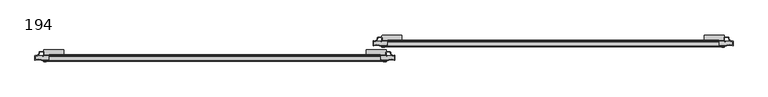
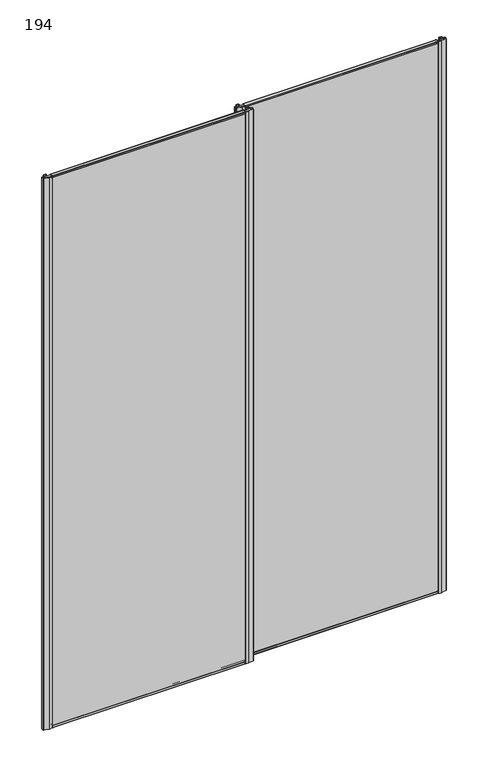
"""IFC4 building model written with IfcOpenShell, lengths in millimetres: proxy geometry, Doors-Other- SOGAL-SOG020022 : 194."""

from ifc_helpers import new_model, si_unit, point, frame, frame_2d, origin, place, context, project, spatial, polyline, circle_curve, trimmed, segment, composite_curve, outline, extrude, source, transform, mapped, element, save
from ifc_brep_helpers import plane_surface, cylinder_surface, advanced_brep


def proxy_194_fea3deca(model_context):
    return source(origin(), model_context, "Body", "SolidModel", [
        extrude(outline(polyline([(35.7189733, 0.5001148), (33.2189805, 0.5001148), (31.7000096, 9.1146495), (35.3189977, 9.1146495), (35.3189977, 1.8001808), (37.0189963, 1.8001808), (35.7189733, 0.5001148)])), frame((-3.431231, 0.0, 0.0), z_axis=(1.0, 0.0, 0.0), x_axis=(0.0, 1.0, 0.0)), (0.0, 0.0, 1.0), 3.4418784),
        extrude(outline(polyline([(31.9189872, 0.5001148), (30.6189642, 1.8001808), (32.3189628, 1.8001808), (32.3189628, 9.1146495), (35.9379509, 9.1146495), (34.41898, 0.5001148), (31.9189872, 0.5001148)])), frame((0.3258571, 0.0, 0.0), z_axis=(1.0, 0.0, 0.0), x_axis=(0.0, 1.0, 0.0)), (0.0, 0.0, 1.0), 3.3556559),
        advanced_brep(
        [(5.6593371, 38.8253348, 101.7001877), (4.165725, 40.3189469, 101.7001877), (-48.1393518, 40.3189469, 101.7001877), (-49.6393329, 38.8189658, 101.7001877), (-49.6393556, 26.6175523, 101.7001877), (-48.6393531, 25.6190084, 101.7001877), (4.6607357, 25.6190084, 101.7001877), (5.6607474, 26.61902, 101.7001877), (5.6607474, 38.8189658, 9.1146495), (5.6607474, 26.61902, 9.1146495), (4.6607357, 25.6190084, 9.1146495), (-48.6393531, 25.6190084, 9.1146495), (-49.637897, 26.6175523, 9.1146495), (-49.6393556, 38.8189658, 9.1146495), (-48.1393518, 40.3189469, 9.1146495), (4.165725, 40.3189469, 9.1146495)],
        [
            (0, 1, circle_curve(frame((4.165725, 38.8253348, 101.7001877), z_axis=(0.0, 0.0, 1.0), x_axis=(-1.0, 0.0, 0.0)), 1.4936121)),
            (1, 2),
            (2, 3, circle_curve(frame((-48.1393518, 38.8189658, 101.7001877), z_axis=(0.0, 0.0, 1.0), x_axis=(-1.0, 0.0, 0.0)), 1.4999811)),
            (3, 4),
            (4, 5, circle_curve(frame((-48.6393531, 26.6175523, 101.7001877), z_axis=(0.0, 0.0, 1.0), x_axis=(-1.0, 0.0, 0.0)), 0.9985439)),
            (5, 6),
            (6, 7, circle_curve(frame((4.6607357, 26.61902, 101.7001877), z_axis=(0.0, 0.0, 1.0), x_axis=(-1.0, 0.0, 0.0)), 1.0000116)),
            (7, 0),
            (8, 9),
            (9, 10, circle_curve(frame((4.6607357, 26.61902, 9.1146495), z_axis=(0.0, 0.0, -1.0), x_axis=(-1.0, 0.0, 0.0)), 1.0000116)),
            (10, 11),
            (11, 12, circle_curve(frame((-48.6393531, 26.6175523, 9.1146495), z_axis=(0.0, 0.0, -1.0), x_axis=(-1.0, 0.0, 0.0)), 0.9985439)),
            (12, 13),
            (13, 14, circle_curve(frame((-48.1393518, 38.8189658, 9.1146495), z_axis=(0.0, 0.0, -1.0), x_axis=(-1.0, 0.0, 0.0)), 1.4999811)),
            (14, 15),
            (15, 8, circle_curve(frame((4.165725, 38.8253348, 9.1146495), z_axis=(0.0, 0.0, -1.0), x_axis=(-1.0, 0.0, 0.0)), 1.4936121)),
            (7, 9),
            (8, 0),
            (6, 10),
            (5, 11),
            (4, 12),
            (3, 13),
            (2, 14),
            (1, 15),
        ],
        [
            plane_surface(frame((5.6607474, 31.1939588, 101.7001877), z_axis=(0.0, 0.0, 1.0), x_axis=(0.0, -1.0, 0.0))),
            plane_surface(frame((5.6607474, 31.1939588, 9.1146495), z_axis=(0.0, 0.0, -1.0), x_axis=(0.0, 1.0, 0.0))),
            plane_surface(frame((5.6607474, 38.8189658, 101.7001877), z_axis=(1.0, 0.0, 0.0), x_axis=(0.0, 0.0, -1.0))),
            cylinder_surface(frame((4.6607357, 26.61902, 9.1146495), z_axis=(0.0, 0.0, 1.0), x_axis=(-1.0, 0.0, 0.0)), 1.0000116),
            plane_surface(frame((4.6607357, 25.6190084, 101.7001877), z_axis=(0.0, -1.0, 0.0), x_axis=(0.0, 0.0, -1.0))),
            cylinder_surface(frame((-48.6393531, 26.6175523, 9.1146495), z_axis=(0.0, 0.0, 1.0), x_axis=(-1.0, 0.0, 0.0)), 0.9985439),
            plane_surface(frame((-49.6393556, 26.6175523, 101.7001877), z_axis=(-1.0, 0.0, 0.0), x_axis=(0.0, 0.0, -1.0))),
            cylinder_surface(frame((-48.1393518, 38.8189658, 9.1146495), z_axis=(0.0, 0.0, 1.0), x_axis=(-1.0, 0.0, 0.0)), 1.4999811),
            plane_surface(frame((-48.1393518, 40.3189469, 101.7001877), z_axis=(0.0, 1.0, 0.0), x_axis=(0.0, 0.0, -1.0))),
            cylinder_surface(frame((4.165725, 38.8253348, 9.1146495), z_axis=(0.0, 0.0, 1.0), x_axis=(-1.0, 0.0, 0.0)), 1.4936121),
        ],
        [
            (0, [[1, 2, 3, 4, 5, 6, 7, 8]]),
            (1, [[9, 10, 11, 12, 13, 14, 15, 16]]),
            (2, [[17, -9, 18, -8]]),
            (3, [[19, -10, -17, -7]]),
            (4, [[20, -11, -19, -6]]),
            (5, [[21, -12, -20, -5]]),
            (6, [[22, -13, -21, -4]]),
            (7, [[23, -14, -22, -3]]),
            (8, [[24, -15, -23, -2]]),
            (9, [[-18, -16, -24, -1]]),
        ],
    ),
        extrude(outline(polyline([(35.7189733, 0.5001148), (33.2189805, 0.5001148), (31.7000096, 9.1146495), (35.3189977, 9.1146495), (35.3189977, 1.8001808), (37.0189963, 1.8001808), (35.7189733, 0.5001148)])), frame((-43.9893513, 0.0, 0.0), z_axis=(1.0, 0.0, 0.0), x_axis=(0.0, 1.0, 0.0)), (0.0, 0.0, 1.0), 3.4418784),
        extrude(outline(polyline([(31.9189872, 0.5001148), (30.6189642, 1.8001808), (32.3189628, 1.8001808), (32.3189628, 9.1146495), (35.9379509, 9.1146495), (34.41898, 0.5001148), (31.9189872, 0.5001148)])), frame((-47.6602169, 0.0, 0.0), z_axis=(1.0, 0.0, 0.0), x_axis=(0.0, 1.0, 0.0)), (0.0, 0.0, 1.0), 3.3556559),
        extrude(outline(composite_curve([segment(trimmed(circle_curve(frame_2d((18.4478565, -21.9704877)), 17.4793341), [point((18.4478565, -4.4911536))], [point((18.4478565, -39.4498218))], False, "CARTESIAN"), True, "CONTINUOUS"), segment(trimmed(circle_curve(frame_2d((18.4478565, -21.9704877)), 17.4793341), [point((18.4478565, -39.4498218))], [point((18.4478565, -4.4911536))], False, "CARTESIAN"), True, "CONTINUOUS")], self_intersect=False)), frame((0.0, 29.818061, 0.0), z_axis=(0.0, 1.0, 0.0), x_axis=(0.0, 0.0, 1.0)), (0.0, 0.0, 1.0), 7.9147389),
        extrude(outline(polyline([(35.7189733, 0.5001148), (33.2189805, 0.5001148), (31.7000096, 9.1146495), (35.3189977, 9.1146495), (35.3189977, 1.8001808), (37.0189963, 1.8001808), (35.7189733, 0.5001148)])), frame((-899.4523014, 0.0, 0.0), z_axis=(1.0, 0.0, 0.0), x_axis=(0.0, 1.0, 0.0)), (0.0, 0.0, 1.0), 3.4418784),
        extrude(outline(polyline([(31.9189872, 0.5001148), (30.6189642, 1.8001808), (32.3189628, 1.8001808), (32.3189628, 9.1146495), (35.9379509, 9.1146495), (34.41898, 0.5001148), (31.9189872, 0.5001148)])), frame((-895.6952133, 0.0, 0.0), z_axis=(1.0, 0.0, 0.0), x_axis=(0.0, 1.0, 0.0)), (0.0, 0.0, 1.0), 3.3556559),
        advanced_brep(
        [(-890.3617334, 38.8253348, 101.7001877), (-891.8553455, 40.3189469, 101.7001877), (-944.1604222, 40.3189469, 101.7001877), (-945.6604033, 38.8189658, 101.7001877), (-945.660426, 26.6175523, 101.7001877), (-944.6604235, 25.6190084, 101.7001877), (-891.3603347, 25.6190084, 101.7001877), (-890.360323, 26.61902, 101.7001877), (-890.360323, 38.8189658, 9.1146495), (-890.360323, 26.61902, 9.1146495), (-891.3603347, 25.6190084, 9.1146495), (-944.6604235, 25.6190084, 9.1146495), (-945.6589674, 26.6175523, 9.1146495), (-945.660426, 38.8189658, 9.1146495), (-944.1604222, 40.3189469, 9.1146495), (-891.8553455, 40.3189469, 9.1146495)],
        [
            (0, 1, circle_curve(frame((-891.8553455, 38.8253348, 101.7001877), z_axis=(0.0, 0.0, 1.0), x_axis=(-1.0, 0.0, 0.0)), 1.4936121)),
            (1, 2),
            (2, 3, circle_curve(frame((-944.1604222, 38.8189658, 101.7001877), z_axis=(0.0, 0.0, 1.0), x_axis=(-1.0, 0.0, 0.0)), 1.4999811)),
            (3, 4),
            (4, 5, circle_curve(frame((-944.6604235, 26.6175523, 101.7001877), z_axis=(0.0, 0.0, 1.0), x_axis=(-1.0, 0.0, 0.0)), 0.9985439)),
            (5, 6),
            (6, 7, circle_curve(frame((-891.3603347, 26.61902, 101.7001877), z_axis=(0.0, 0.0, 1.0), x_axis=(-1.0, 0.0, 0.0)), 1.0000116)),
            (7, 0),
            (8, 9),
            (9, 10, circle_curve(frame((-891.3603347, 26.61902, 9.1146495), z_axis=(0.0, 0.0, -1.0), x_axis=(-1.0, 0.0, 0.0)), 1.0000116)),
            (10, 11),
            (11, 12, circle_curve(frame((-944.6604235, 26.6175523, 9.1146495), z_axis=(0.0, 0.0, -1.0), x_axis=(-1.0, 0.0, 0.0)), 0.9985439)),
            (12, 13),
            (13, 14, circle_curve(frame((-944.1604222, 38.8189658, 9.1146495), z_axis=(0.0, 0.0, -1.0), x_axis=(-1.0, 0.0, 0.0)), 1.4999811)),
            (14, 15),
            (15, 8, circle_curve(frame((-891.8553455, 38.8253348, 9.1146495), z_axis=(0.0, 0.0, -1.0), x_axis=(-1.0, 0.0, 0.0)), 1.4936121)),
            (7, 9),
            (8, 0),
            (6, 10),
            (5, 11),
            (4, 12),
            (3, 13),
            (2, 14),
            (1, 15),
        ],
        [
            plane_surface(frame((-890.360323, 31.1939588, 101.7001877), z_axis=(0.0, 0.0, 1.0), x_axis=(0.0, -1.0, 0.0))),
            plane_surface(frame((-890.360323, 31.1939588, 9.1146495), z_axis=(0.0, 0.0, -1.0), x_axis=(0.0, 1.0, 0.0))),
            plane_surface(frame((-890.360323, 38.8189658, 101.7001877), z_axis=(1.0, 0.0, 0.0), x_axis=(0.0, 0.0, -1.0))),
            cylinder_surface(frame((-891.3603347, 26.61902, 9.1146495), z_axis=(0.0, 0.0, 1.0), x_axis=(-1.0, 0.0, 0.0)), 1.0000116),
            plane_surface(frame((-891.3603347, 25.6190084, 101.7001877), z_axis=(0.0, -1.0, 0.0), x_axis=(0.0, 0.0, -1.0))),
            cylinder_surface(frame((-944.6604235, 26.6175523, 9.1146495), z_axis=(0.0, 0.0, 1.0), x_axis=(-1.0, 0.0, 0.0)), 0.9985439),
            plane_surface(frame((-945.660426, 26.6175523, 101.7001877), z_axis=(-1.0, 0.0, 0.0), x_axis=(0.0, 0.0, -1.0))),
            cylinder_surface(frame((-944.1604222, 38.8189658, 9.1146495), z_axis=(0.0, 0.0, 1.0), x_axis=(-1.0, 0.0, 0.0)), 1.4999811),
            plane_surface(frame((-944.1604222, 40.3189469, 101.7001877), z_axis=(0.0, 1.0, 0.0), x_axis=(0.0, 0.0, -1.0))),
            cylinder_surface(frame((-891.8553455, 38.8253348, 9.1146495), z_axis=(0.0, 0.0, 1.0), x_axis=(-1.0, 0.0, 0.0)), 1.4936121),
        ],
        [
            (0, [[1, 2, 3, 4, 5, 6, 7, 8]]),
            (1, [[9, 10, 11, 12, 13, 14, 15, 16]]),
            (2, [[17, -9, 18, -8]]),
            (3, [[19, -10, -17, -7]]),
            (4, [[20, -11, -19, -6]]),
            (5, [[21, -12, -20, -5]]),
            (6, [[22, -13, -21, -4]]),
            (7, [[23, -14, -22, -3]]),
            (8, [[24, -15, -23, -2]]),
            (9, [[-18, -16, -24, -1]]),
        ],
    ),
        extrude(outline(polyline([(35.7189733, 0.5001148), (33.2189805, 0.5001148), (31.7000096, 9.1146495), (35.3189977, 9.1146495), (35.3189977, 1.8001808), (37.0189963, 1.8001808), (35.7189733, 0.5001148)])), frame((-940.0104217, 0.0, 0.0), z_axis=(1.0, 0.0, 0.0), x_axis=(0.0, 1.0, 0.0)), (0.0, 0.0, 1.0), 3.4418784),
        extrude(outline(polyline([(31.9189872, 0.5001148), (30.6189642, 1.8001808), (32.3189628, 1.8001808), (32.3189628, 9.1146495), (35.9379509, 9.1146495), (34.41898, 0.5001148), (31.9189872, 0.5001148)])), frame((-943.6812873, 0.0, 0.0), z_axis=(1.0, 0.0, 0.0), x_axis=(0.0, 1.0, 0.0)), (0.0, 0.0, 1.0), 3.3556559),
        extrude(outline(composite_curve([segment(trimmed(circle_curve(frame_2d((18.4478565, -917.9915581)), 17.4793341), [point((18.4478565, -900.512224))], [point((18.4478565, -935.4708922))], False, "CARTESIAN"), True, "CONTINUOUS"), segment(trimmed(circle_curve(frame_2d((18.4478565, -917.9915581)), 17.4793341), [point((18.4478565, -935.4708922))], [point((18.4478565, -900.512224))], False, "CARTESIAN"), True, "CONTINUOUS")], self_intersect=False)), frame((0.0, 29.818061, 0.0), z_axis=(0.0, 1.0, 0.0), x_axis=(0.0, 0.0, 1.0)), (0.0, 0.0, 1.0), 7.9147389),
        extrude(outline(composite_curve([segment(trimmed(circle_curve(frame_2d((-931.2399903, 11.1215219)), 1.0), [point((-931.2399903, 12.1215219))], [point((-930.2399903, 11.1215219))], False, "CARTESIAN"), True, "CONTINUOUS"), segment(polyline([(-930.2399903, 11.1215219), (-930.2399903, 8.6215219)]), True, "CONTINUOUS"), segment(trimmed(circle_curve(frame_2d((-931.0399903, 8.6215219)), 0.8), [point((-930.2399903, 8.6215219))], [point((-930.8226512, 7.8516104))], False, "CARTESIAN"), True, "CONTINUOUS"), segment(trimmed(circle_curve(frame_2d((-943.3196483, 52.1215219)), 46.0), [point((-930.8226512, 7.8516104))], [point((-945.622204, 6.1791859))], False, "CARTESIAN"), True, "CONTINUOUS"), segment(trimmed(circle_curve(frame_2d((-960.4791363, -11.3784781)), 23.0), [point((-945.622204, 6.1791859))], [point((-968.8749547, 10.034374))], True, "CARTESIAN"), True, "CONTINUOUS"), segment(trimmed(circle_curve(frame_2d((-969.2399903, 10.9653675)), 1.0), [point((-968.8749547, 10.034374))], [point((-970.2399903, 10.9653675))], False, "CARTESIAN"), True, "CONTINUOUS"), segment(polyline([(-970.2399903, 10.9653675), (-970.2399903, 22.4653675)]), True, "CONTINUOUS"), segment(trimmed(circle_curve(frame_2d((-969.2399903, 22.4653675)), 1.0), [point((-970.2399903, 22.4653675))], [point((-968.961542, 23.4258188))], False, "CARTESIAN"), True, "CONTINUOUS"), segment(trimmed(circle_curve(frame_2d((-966.7339556, 31.1094285)), 8.0), [point((-968.961542, 23.4258188))], [point((-958.7385535, 31.3806201))], True, "CARTESIAN"), True, "CONTINUOUS"), segment(trimmed(circle_curve(frame_2d((-956.2399903, 31.4653675)), 2.5), [point((-958.7385535, 31.3806201))], [point((-956.2399903, 33.9653675))], False, "CARTESIAN"), True, "CONTINUOUS"), segment(polyline([(-956.2399903, 33.9653675), (-947.7399903, 33.9653675)]), True, "CONTINUOUS"), segment(trimmed(circle_curve(frame_2d((-947.7399903, 31.4653675)), 2.5), [point((-947.7399903, 33.9653675))], [point((-945.2399903, 31.4653675))], False, "CARTESIAN"), True, "CONTINUOUS"), segment(polyline([(-945.2399903, 31.4653675), (-945.2399903, 25.1974183), (-947.3946909, 21.4653675), (-948.0875112, 21.8653675), (-946.0399903, 25.4117777), (-946.0399903, 31.4653675)]), True, "CONTINUOUS"), segment(trimmed(circle_curve(frame_2d((-947.7399903, 31.4653675)), 1.7), [point((-946.0399903, 31.4653675))], [point((-947.7399903, 33.1653675))], True, "CARTESIAN"), True, "CONTINUOUS"), segment(polyline([(-947.7399903, 33.1653675), (-956.2399903, 33.1653675)]), True, "CONTINUOUS"), segment(trimmed(circle_curve(frame_2d((-956.2399903, 31.4653675)), 1.7), [point((-956.2399903, 33.1653675))], [point((-957.9390133, 31.4077393))], True, "CARTESIAN"), True, "CONTINUOUS"), segment(trimmed(circle_curve(frame_2d((-966.7339556, 31.1094285)), 8.8), [point((-957.9390133, 31.4077393))], [point((-969.4399903, 22.7358166))], False, "CARTESIAN"), True, "CONTINUOUS"), segment(polyline([(-969.4399903, 22.7358166), (-969.4399903, 10.6701748)]), True, "CONTINUOUS"), segment(trimmed(circle_curve(frame_2d((-960.4791363, -11.3784781)), 23.8), [point((-969.4399903, 10.6701748))], [point((-945.3155471, 6.9656099))], False, "CARTESIAN"), True, "CONTINUOUS"), segment(trimmed(circle_curve(frame_2d((-943.3196483, 52.1215219)), 45.2), [point((-945.3155471, 6.9656099))], [point((-931.0399903, 8.6215219))], True, "CARTESIAN"), True, "CONTINUOUS"), segment(polyline([(-931.0399903, 8.6215219), (-931.0399903, 11.3215219), (-932.2399903, 11.3215219), (-932.2399903, 12.1215219), (-931.2399903, 12.1215219)]), True, "CONTINUOUS")], self_intersect=False)), frame((0.0, 0.0, 11.3999946), z_axis=(0.0, 0.0, 1.0), x_axis=(1.0, 0.0, 0.0)), (0.0, 0.0, 1.0), 2770.5),
        extrude(outline(composite_curve([segment(polyline([(-8.7600122, 12.1215401), (-7.7600122, 12.1215401), (-7.7600122, 11.3215401), (-8.9600122, 11.3215401), (-8.9600122, 8.6215401)]), True, "CONTINUOUS"), segment(trimmed(circle_curve(frame_2d((3.3196457, 52.1215401)), 45.2), [point((-8.9600122, 8.6215401))], [point((5.3155446, 6.9656281))], True, "CARTESIAN"), True, "CONTINUOUS"), segment(trimmed(circle_curve(frame_2d((20.4791337, -11.3784599)), 23.8), [point((5.3155446, 6.9656281))], [point((29.4399878, 10.670193))], False, "CARTESIAN"), True, "CONTINUOUS"), segment(polyline([(29.4399878, 10.670193), (29.4399878, 22.7358348)]), True, "CONTINUOUS"), segment(trimmed(circle_curve(frame_2d((26.7339531, 31.1094467)), 8.8), [point((29.4399878, 22.7358348))], [point((17.9390107, 31.4077575))], False, "CARTESIAN"), True, "CONTINUOUS"), segment(trimmed(circle_curve(frame_2d((16.2399878, 31.4653857)), 1.7), [point((17.9390107, 31.4077575))], [point((16.2399878, 33.1653857))], True, "CARTESIAN"), True, "CONTINUOUS"), segment(polyline([(16.2399878, 33.1653857), (7.7399878, 33.1653857)]), True, "CONTINUOUS"), segment(trimmed(circle_curve(frame_2d((7.7399878, 31.4653857)), 1.7), [point((7.7399878, 33.1653857))], [point((6.0399878, 31.4653857))], True, "CARTESIAN"), True, "CONTINUOUS"), segment(polyline([(6.0399878, 31.4653857), (6.0399878, 25.4117959), (8.0875086, 21.8653857), (7.3946883, 21.4653857), (5.2399878, 25.1974365), (5.2399878, 31.4653857)]), True, "CONTINUOUS"), segment(trimmed(circle_curve(frame_2d((7.7399878, 31.4653857)), 2.5), [point((5.2399878, 31.4653857))], [point((7.7399878, 33.9653857))], False, "CARTESIAN"), True, "CONTINUOUS"), segment(polyline([(7.7399878, 33.9653857), (16.2399878, 33.9653857)]), True, "CONTINUOUS"), segment(trimmed(circle_curve(frame_2d((16.2399878, 31.4653857)), 2.5), [point((16.2399878, 33.9653857))], [point((18.7385509, 31.3806383))], False, "CARTESIAN"), True, "CONTINUOUS"), segment(trimmed(circle_curve(frame_2d((26.7339531, 31.1094467)), 8.0), [point((18.7385509, 31.3806383))], [point((28.9615395, 23.4258369))], True, "CARTESIAN"), True, "CONTINUOUS"), segment(trimmed(circle_curve(frame_2d((29.2399878, 22.4653857)), 1.0), [point((28.9615395, 23.4258369))], [point((30.2399878, 22.4653857))], False, "CARTESIAN"), True, "CONTINUOUS"), segment(polyline([(30.2399878, 22.4653857), (30.2399878, 10.9653857)]), True, "CONTINUOUS"), segment(trimmed(circle_curve(frame_2d((29.2399878, 10.9653857)), 1.0), [point((30.2399878, 10.9653857))], [point((28.8749522, 10.0343921))], False, "CARTESIAN"), True, "CONTINUOUS"), segment(trimmed(circle_curve(frame_2d((20.4791337, -11.3784599)), 23.0), [point((28.8749522, 10.0343921))], [point((5.6222015, 6.1792041))], True, "CARTESIAN"), True, "CONTINUOUS"), segment(trimmed(circle_curve(frame_2d((3.3196457, 52.1215401)), 46.0), [point((5.6222015, 6.1792041))], [point((-9.1773513, 7.8516286))], False, "CARTESIAN"), True, "CONTINUOUS"), segment(trimmed(circle_curve(frame_2d((-8.9600122, 8.6215401)), 0.8), [point((-9.1773513, 7.8516286))], [point((-9.7600122, 8.6215401))], False, "CARTESIAN"), True, "CONTINUOUS"), segment(polyline([(-9.7600122, 8.6215401), (-9.7600122, 11.1215401)]), True, "CONTINUOUS"), segment(trimmed(circle_curve(frame_2d((-8.7600122, 11.1215401)), 1.0), [point((-9.7600122, 11.1215401))], [point((-8.7600122, 12.1215401))], False, "CARTESIAN"), True, "CONTINUOUS")], self_intersect=False)), frame((0.0, 0.0, 11.0066611), z_axis=(0.0, 0.0, 1.0), x_axis=(1.0, 0.0, 0.0)), (0.0, 0.0, 1.0), 2770.5),
        extrude(outline(polyline([(-967.6890865, 12.1215401), (-967.6890865, 22.1514148), (28.5106576, 22.1514148), (28.5106576, 12.1215401), (-967.6890865, 12.1215401)])), frame((0.0, 0.0, 11.3999946), z_axis=(0.0, 0.0, 1.0), x_axis=(1.0, 0.0, 0.0)), (0.0, 0.0, 1.0), 2769.6935975),
        extrude(outline(composite_curve([segment(trimmed(circle_curve(frame_2d((22.2592296, 2773.9404976)), 1.2033106), [point((23.3614535, 2773.4577358))], [point((21.0612487, 2774.0536265))], False, "CARTESIAN"), True, "CONTINUOUS"), segment(polyline([(21.0612487, 2774.0536265), (21.2989118, 2775.004279), (22.1488822, 2774.7917387), (21.9062585, 2773.8214619)]), True, "CONTINUOUS"), segment(trimmed(circle_curve(frame_2d((22.3913712, 2773.7001564)), 0.5000494), [point((21.9062585, 2773.8214619))], [point((22.8764904, 2773.5788766))], True, "CARTESIAN"), True, "CONTINUOUS"), segment(polyline([(22.8764904, 2773.5788766), (24.8764925, 2781.5788849)]), True, "CONTINUOUS"), segment(trimmed(circle_curve(frame_2d((24.3914212, 2781.7001528)), 0.5), [point((24.8764925, 2781.5788849))], [point((24.3914212, 2782.2001528))], True, "CARTESIAN"), True, "CONTINUOUS"), segment(polyline([(24.3914212, 2782.2001528), (9.3913237, 2782.2001528)]), True, "CONTINUOUS"), segment(trimmed(circle_curve(frame_2d((9.3913237, 2781.7001528)), 0.5), [point((9.3913237, 2782.2001528))], [point((8.9062524, 2781.5788849))], True, "CARTESIAN"), True, "CONTINUOUS"), segment(polyline([(8.9062524, 2781.5788849), (10.9062545, 2773.5788766)]), True, "CONTINUOUS"), segment(trimmed(circle_curve(frame_2d((11.3913736, 2773.7001564)), 0.5000494), [point((10.9062545, 2773.5788766))], [point((11.8764864, 2773.8214619))], True, "CARTESIAN"), True, "CONTINUOUS"), segment(polyline([(11.8764864, 2773.8214619), (11.6338627, 2774.7917387), (12.483833, 2775.004279), (12.7214962, 2774.0536265)]), True, "CONTINUOUS"), segment(trimmed(circle_curve(frame_2d((11.5235152, 2773.9404976)), 1.2033106), [point((12.7214962, 2774.0536265))], [point((10.4212913, 2773.4577358))], False, "CARTESIAN"), True, "CONTINUOUS"), segment(polyline([(10.4212913, 2773.4577358), (8.4212681, 2781.4577562)]), True, "CONTINUOUS"), segment(trimmed(circle_curve(frame_2d((9.3913328, 2781.7002746)), 0.9999203), [point((8.4212681, 2781.4577562))], [point((9.3913328, 2782.7001949))], False, "CARTESIAN"), True, "CONTINUOUS"), segment(polyline([(9.3913328, 2782.7001949), (24.3914121, 2782.7001949)]), True, "CONTINUOUS"), segment(trimmed(circle_curve(frame_2d((24.3914121, 2781.7002746)), 0.9999203), [point((24.3914121, 2782.7001949))], [point((25.3614768, 2781.4577562))], False, "CARTESIAN"), True, "CONTINUOUS"), segment(polyline([(25.3614768, 2781.4577562), (23.3614535, 2773.4577358)]), True, "CONTINUOUS")], self_intersect=False)), frame((-930.0, 0.0, 0.0), z_axis=(1.0, 0.0, 0.0), x_axis=(0.0, 1.0, 0.0)), (0.0, 0.0, 1.0), 919.8830146),
        extrude(outline(composite_curve([segment(polyline([(23.3614535, 19.7424723), (25.3614768, 11.7424519)]), True, "CONTINUOUS"), segment(trimmed(circle_curve(frame_2d((24.3914121, 11.4999335)), 0.9999203), [point((25.3614768, 11.7424519))], [point((24.3914121, 10.5000132))], False, "CARTESIAN"), True, "CONTINUOUS"), segment(polyline([(24.3914121, 10.5000132), (9.3913328, 10.5000132)]), True, "CONTINUOUS"), segment(trimmed(circle_curve(frame_2d((9.3913328, 11.4999335)), 0.9999203), [point((9.3913328, 10.5000132))], [point((8.4212681, 11.7424519))], False, "CARTESIAN"), True, "CONTINUOUS"), segment(polyline([(8.4212681, 11.7424519), (10.4212913, 19.7424723)]), True, "CONTINUOUS"), segment(trimmed(circle_curve(frame_2d((11.5235152, 19.2597105)), 1.2033106), [point((10.4212913, 19.7424723))], [point((12.7214962, 19.1465816))], False, "CARTESIAN"), True, "CONTINUOUS"), segment(polyline([(12.7214962, 19.1465816), (12.483833, 18.1959291), (11.6338627, 18.4084694), (11.8764864, 19.3787462)]), True, "CONTINUOUS"), segment(trimmed(circle_curve(frame_2d((11.3913736, 19.5000516)), 0.5000494), [point((11.8764864, 19.3787462))], [point((10.9062545, 19.6213314))], True, "CARTESIAN"), True, "CONTINUOUS"), segment(polyline([(10.9062545, 19.6213314), (8.9062524, 11.6213231)]), True, "CONTINUOUS"), segment(trimmed(circle_curve(frame_2d((9.3913237, 11.5000553)), 0.5), [point((8.9062524, 11.6213231))], [point((9.3913237, 11.0000553))], True, "CARTESIAN"), True, "CONTINUOUS"), segment(polyline([(9.3913237, 11.0000553), (24.3914212, 11.0000553)]), True, "CONTINUOUS"), segment(trimmed(circle_curve(frame_2d((24.3914212, 11.5000553)), 0.5), [point((24.3914212, 11.0000553))], [point((24.8764925, 11.6213231))], True, "CARTESIAN"), True, "CONTINUOUS"), segment(polyline([(24.8764925, 11.6213231), (22.8764904, 19.6213314)]), True, "CONTINUOUS"), segment(trimmed(circle_curve(frame_2d((22.3913712, 19.5000516)), 0.5000494), [point((22.8764904, 19.6213314))], [point((21.9062585, 19.3787462))], True, "CARTESIAN"), True, "CONTINUOUS"), segment(polyline([(21.9062585, 19.3787462), (22.1488822, 18.4084694), (21.2989118, 18.1959291), (21.0612487, 19.1465816)]), True, "CONTINUOUS"), segment(trimmed(circle_curve(frame_2d((22.2592296, 19.2597105)), 1.2033106), [point((21.0612487, 19.1465816))], [point((23.3614535, 19.7424723))], False, "CARTESIAN"), True, "CONTINUOUS")], self_intersect=False)), frame((-930.0, 0.0, 0.0), z_axis=(1.0, 0.0, 0.0), x_axis=(0.0, 1.0, 0.0)), (0.0, 0.0, 1.0), 919.8830146),
        extrude(outline(polyline([(75.9560703, 0.5001148), (73.4560775, 0.5001148), (71.9371066, 9.1146495), (75.5560947, 9.1146495), (75.5560947, 1.8001808), (77.2560933, 1.8001808), (75.9560703, 0.5001148)])), frame((-0.0106474, 0.0, 0.0), z_axis=(1.0, 0.0, 0.0), x_axis=(0.0, 1.0, 0.0)), (0.0, 0.0, 1.0), 3.4418784),
        extrude(outline(polyline([(72.1560842, 0.5001148), (70.8560612, 1.8001808), (72.5560598, 1.8001808), (72.5560598, 9.1146495), (76.1750479, 9.1146495), (74.656077, 0.5001148), (72.1560842, 0.5001148)])), frame((-3.681513, 0.0, 0.0), z_axis=(1.0, 0.0, 0.0), x_axis=(0.0, 1.0, 0.0)), (0.0, 0.0, 1.0), 3.3556559),
        advanced_brep(
        [(-5.6607474, 79.0560628, 101.7001877), (-5.6607474, 66.856117, 101.7001877), (-4.6607357, 65.8561054, 101.7001877), (48.6393531, 65.8561054, 101.7001877), (49.637897, 66.8546493, 101.7001877), (49.6393556, 79.0560628, 101.7001877), (48.1393518, 80.5560439, 101.7001877), (-4.165725, 80.5560439, 101.7001877), (-5.6593371, 79.0624318, 9.1146495), (-4.165725, 80.5560439, 9.1146495), (48.1393518, 80.5560439, 9.1146495), (49.6393329, 79.0560628, 9.1146495), (49.6393556, 66.8546493, 9.1146495), (48.6393531, 65.8561054, 9.1146495), (-4.6607357, 65.8561054, 9.1146495), (-5.6607474, 66.856117, 9.1146495)],
        [
            (0, 1),
            (1, 2, circle_curve(frame((-4.6607357, 66.856117, 101.7001877), z_axis=(0.0, 0.0, 1.0), x_axis=(1.0, 0.0, 0.0)), 1.0000116)),
            (2, 3),
            (3, 4, circle_curve(frame((48.6393531, 66.8546493, 101.7001877), z_axis=(0.0, 0.0, 1.0), x_axis=(1.0, 0.0, 0.0)), 0.9985439)),
            (4, 5),
            (5, 6, circle_curve(frame((48.1393518, 79.0560628, 101.7001877), z_axis=(0.0, 0.0, 1.0), x_axis=(1.0, 0.0, 0.0)), 1.4999811)),
            (6, 7),
            (7, 0, circle_curve(frame((-4.165725, 79.0624318, 101.7001877), z_axis=(0.0, 0.0, 1.0), x_axis=(1.0, 0.0, 0.0)), 1.4936121)),
            (8, 9, circle_curve(frame((-4.165725, 79.0624318, 9.1146495), z_axis=(0.0, 0.0, -1.0), x_axis=(1.0, 0.0, 0.0)), 1.4936121)),
            (9, 10),
            (10, 11, circle_curve(frame((48.1393518, 79.0560628, 9.1146495), z_axis=(0.0, 0.0, -1.0), x_axis=(1.0, 0.0, 0.0)), 1.4999811)),
            (11, 12),
            (12, 13, circle_curve(frame((48.6393531, 66.8546493, 9.1146495), z_axis=(0.0, 0.0, -1.0), x_axis=(1.0, 0.0, 0.0)), 0.9985439)),
            (13, 14),
            (14, 15, circle_curve(frame((-4.6607357, 66.856117, 9.1146495), z_axis=(0.0, 0.0, -1.0), x_axis=(1.0, 0.0, 0.0)), 1.0000116)),
            (15, 8),
            (0, 8),
            (15, 1),
            (14, 2),
            (13, 3),
            (12, 4),
            (11, 5),
            (10, 6),
            (9, 7),
        ],
        [
            plane_surface(frame((-5.6607474, 71.4310558, 101.7001877), z_axis=(0.0, 0.0, 1.0), x_axis=(0.0, -1.0, 0.0))),
            plane_surface(frame((-5.6607474, 71.4310558, 9.1146495), z_axis=(0.0, 0.0, -1.0), x_axis=(0.0, 1.0, 0.0))),
            plane_surface(frame((-5.6607474, 79.0560628, 101.7001877), z_axis=(-1.0, 0.0, 0.0), x_axis=(0.0, 0.0, -1.0))),
            cylinder_surface(frame((-4.6607357, 66.856117, 9.1146495), z_axis=(0.0, 0.0, 1.0), x_axis=(1.0, 0.0, 0.0)), 1.0000116),
            plane_surface(frame((-4.6607357, 65.8561054, 101.7001877), z_axis=(0.0, -1.0, 0.0), x_axis=(0.0, 0.0, -1.0))),
            cylinder_surface(frame((48.6393531, 66.8546493, 9.1146495), z_axis=(0.0, 0.0, 1.0), x_axis=(1.0, 0.0, 0.0)), 0.9985439),
            plane_surface(frame((49.6393556, 66.8546493, 101.7001877), z_axis=(1.0, 0.0, 0.0), x_axis=(0.0, 0.0, -1.0))),
            cylinder_surface(frame((48.1393518, 79.0560628, 9.1146495), z_axis=(0.0, 0.0, 1.0), x_axis=(1.0, 0.0, 0.0)), 1.4999811),
            plane_surface(frame((48.1393518, 80.5560439, 101.7001877), z_axis=(0.0, 1.0, 0.0), x_axis=(0.0, 0.0, -1.0))),
            cylinder_surface(frame((-4.165725, 79.0624318, 9.1146495), z_axis=(0.0, 0.0, 1.0), x_axis=(1.0, 0.0, 0.0)), 1.4936121),
        ],
        [
            (0, [[1, 2, 3, 4, 5, 6, 7, 8]]),
            (1, [[9, 10, 11, 12, 13, 14, 15, 16]]),
            (2, [[-1, 17, -16, 18]]),
            (3, [[-2, -18, -15, 19]]),
            (4, [[-3, -19, -14, 20]]),
            (5, [[-4, -20, -13, 21]]),
            (6, [[-5, -21, -12, 22]]),
            (7, [[-6, -22, -11, 23]]),
            (8, [[-7, -23, -10, 24]]),
            (9, [[-8, -24, -9, -17]]),
        ],
    ),
        extrude(outline(polyline([(75.9560703, 0.5001148), (73.4560775, 0.5001148), (71.9371066, 9.1146495), (75.5560947, 9.1146495), (75.5560947, 1.8001808), (77.2560933, 1.8001808), (75.9560703, 0.5001148)])), frame((40.5474729, 0.0, 0.0), z_axis=(1.0, 0.0, 0.0), x_axis=(0.0, 1.0, 0.0)), (0.0, 0.0, 1.0), 3.4418784),
        extrude(outline(polyline([(72.1560842, 0.5001148), (70.8560612, 1.8001808), (72.5560598, 1.8001808), (72.5560598, 9.1146495), (76.1750479, 9.1146495), (74.656077, 0.5001148), (72.1560842, 0.5001148)])), frame((44.304561, 0.0, 0.0), z_axis=(1.0, 0.0, 0.0), x_axis=(0.0, 1.0, 0.0)), (0.0, 0.0, 1.0), 3.3556559),
        extrude(outline(composite_curve([segment(trimmed(circle_curve(frame_2d((18.4478565, 21.9704877)), 17.4793341), [point((18.4478565, 4.4911536))], [point((18.4478565, 39.4498218))], False, "CARTESIAN"), True, "CONTINUOUS"), segment(trimmed(circle_curve(frame_2d((18.4478565, 21.9704877)), 17.4793341), [point((18.4478565, 39.4498218))], [point((18.4478565, 4.4911536))], False, "CARTESIAN"), True, "CONTINUOUS")], self_intersect=False)), frame((0.0, 70.055158, 0.0), z_axis=(0.0, 1.0, 0.0), x_axis=(0.0, 0.0, 1.0)), (0.0, 0.0, 1.0), 7.9147389),
        extrude(outline(polyline([(75.9560703, 0.5001148), (73.4560775, 0.5001148), (71.9371066, 9.1146495), (75.5560947, 9.1146495), (75.5560947, 1.8001808), (77.2560933, 1.8001808), (75.9560703, 0.5001148)])), frame((896.010423, 0.0, 0.0), z_axis=(1.0, 0.0, 0.0), x_axis=(0.0, 1.0, 0.0)), (0.0, 0.0, 1.0), 3.4418784),
        extrude(outline(polyline([(72.1560842, 0.5001148), (70.8560612, 1.8001808), (72.5560598, 1.8001808), (72.5560598, 9.1146495), (76.1750479, 9.1146495), (74.656077, 0.5001148), (72.1560842, 0.5001148)])), frame((892.3395575, 0.0, 0.0), z_axis=(1.0, 0.0, 0.0), x_axis=(0.0, 1.0, 0.0)), (0.0, 0.0, 1.0), 3.3556559),
        advanced_brep(
        [(890.360323, 79.0560628, 101.7001877), (890.360323, 66.856117, 101.7001877), (891.3603347, 65.8561054, 101.7001877), (944.6604235, 65.8561054, 101.7001877), (945.6589674, 66.8546493, 101.7001877), (945.660426, 79.0560628, 101.7001877), (944.1604222, 80.5560439, 101.7001877), (891.8553455, 80.5560439, 101.7001877), (890.3617334, 79.0624318, 9.1146495), (891.8553455, 80.5560439, 9.1146495), (944.1604222, 80.5560439, 9.1146495), (945.6604033, 79.0560628, 9.1146495), (945.660426, 66.8546493, 9.1146495), (944.6604235, 65.8561054, 9.1146495), (891.3603347, 65.8561054, 9.1146495), (890.360323, 66.856117, 9.1146495)],
        [
            (0, 1),
            (1, 2, circle_curve(frame((891.3603347, 66.856117, 101.7001877), z_axis=(0.0, 0.0, 1.0), x_axis=(1.0, 0.0, 0.0)), 1.0000116)),
            (2, 3),
            (3, 4, circle_curve(frame((944.6604235, 66.8546493, 101.7001877), z_axis=(0.0, 0.0, 1.0), x_axis=(1.0, 0.0, 0.0)), 0.9985439)),
            (4, 5),
            (5, 6, circle_curve(frame((944.1604222, 79.0560628, 101.7001877), z_axis=(0.0, 0.0, 1.0), x_axis=(1.0, 0.0, 0.0)), 1.4999811)),
            (6, 7),
            (7, 0, circle_curve(frame((891.8553455, 79.0624318, 101.7001877), z_axis=(0.0, 0.0, 1.0), x_axis=(1.0, 0.0, 0.0)), 1.4936121)),
            (8, 9, circle_curve(frame((891.8553455, 79.0624318, 9.1146495), z_axis=(0.0, 0.0, -1.0), x_axis=(1.0, 0.0, 0.0)), 1.4936121)),
            (9, 10),
            (10, 11, circle_curve(frame((944.1604222, 79.0560628, 9.1146495), z_axis=(0.0, 0.0, -1.0), x_axis=(1.0, 0.0, 0.0)), 1.4999811)),
            (11, 12),
            (12, 13, circle_curve(frame((944.6604235, 66.8546493, 9.1146495), z_axis=(0.0, 0.0, -1.0), x_axis=(1.0, 0.0, 0.0)), 0.9985439)),
            (13, 14),
            (14, 15, circle_curve(frame((891.3603347, 66.856117, 9.1146495), z_axis=(0.0, 0.0, -1.0), x_axis=(1.0, 0.0, 0.0)), 1.0000116)),
            (15, 8),
            (0, 8),
            (15, 1),
            (14, 2),
            (13, 3),
            (12, 4),
            (11, 5),
            (10, 6),
            (9, 7),
        ],
        [
            plane_surface(frame((890.360323, 71.4310558, 101.7001877), z_axis=(0.0, 0.0, 1.0), x_axis=(0.0, -1.0, 0.0))),
            plane_surface(frame((890.360323, 71.4310558, 9.1146495), z_axis=(0.0, 0.0, -1.0), x_axis=(0.0, 1.0, 0.0))),
            plane_surface(frame((890.360323, 79.0560628, 101.7001877), z_axis=(-1.0, 0.0, 0.0), x_axis=(0.0, 0.0, -1.0))),
            cylinder_surface(frame((891.3603347, 66.856117, 9.1146495), z_axis=(0.0, 0.0, 1.0), x_axis=(1.0, 0.0, 0.0)), 1.0000116),
            plane_surface(frame((891.3603347, 65.8561054, 101.7001877), z_axis=(0.0, -1.0, 0.0), x_axis=(0.0, 0.0, -1.0))),
            cylinder_surface(frame((944.6604235, 66.8546493, 9.1146495), z_axis=(0.0, 0.0, 1.0), x_axis=(1.0, 0.0, 0.0)), 0.9985439),
            plane_surface(frame((945.660426, 66.8546493, 101.7001877), z_axis=(1.0, 0.0, 0.0), x_axis=(0.0, 0.0, -1.0))),
            cylinder_surface(frame((944.1604222, 79.0560628, 9.1146495), z_axis=(0.0, 0.0, 1.0), x_axis=(1.0, 0.0, 0.0)), 1.4999811),
            plane_surface(frame((944.1604222, 80.5560439, 101.7001877), z_axis=(0.0, 1.0, 0.0), x_axis=(0.0, 0.0, -1.0))),
            cylinder_surface(frame((891.8553455, 79.0624318, 9.1146495), z_axis=(0.0, 0.0, 1.0), x_axis=(1.0, 0.0, 0.0)), 1.4936121),
        ],
        [
            (0, [[1, 2, 3, 4, 5, 6, 7, 8]]),
            (1, [[9, 10, 11, 12, 13, 14, 15, 16]]),
            (2, [[-1, 17, -16, 18]]),
            (3, [[-2, -18, -15, 19]]),
            (4, [[-3, -19, -14, 20]]),
            (5, [[-4, -20, -13, 21]]),
            (6, [[-5, -21, -12, 22]]),
            (7, [[-6, -22, -11, 23]]),
            (8, [[-7, -23, -10, 24]]),
            (9, [[-8, -24, -9, -17]]),
        ],
    ),
        extrude(outline(polyline([(75.9560703, 0.5001148), (73.4560775, 0.5001148), (71.9371066, 9.1146495), (75.5560947, 9.1146495), (75.5560947, 1.8001808), (77.2560933, 1.8001808), (75.9560703, 0.5001148)])), frame((936.5685433, 0.0, 0.0), z_axis=(1.0, 0.0, 0.0), x_axis=(0.0, 1.0, 0.0)), (0.0, 0.0, 1.0), 3.4418784),
        extrude(outline(polyline([(72.1560842, 0.5001148), (70.8560612, 1.8001808), (72.5560598, 1.8001808), (72.5560598, 9.1146495), (76.1750479, 9.1146495), (74.656077, 0.5001148), (72.1560842, 0.5001148)])), frame((940.3256314, 0.0, 0.0), z_axis=(1.0, 0.0, 0.0), x_axis=(0.0, 1.0, 0.0)), (0.0, 0.0, 1.0), 3.3556559),
        extrude(outline(composite_curve([segment(trimmed(circle_curve(frame_2d((18.4478565, 917.9915581)), 17.4793341), [point((18.4478565, 900.512224))], [point((18.4478565, 935.4708922))], False, "CARTESIAN"), True, "CONTINUOUS"), segment(trimmed(circle_curve(frame_2d((18.4478565, 917.9915581)), 17.4793341), [point((18.4478565, 935.4708922))], [point((18.4478565, 900.512224))], False, "CARTESIAN"), True, "CONTINUOUS")], self_intersect=False)), frame((0.0, 70.055158, 0.0), z_axis=(0.0, 1.0, 0.0), x_axis=(0.0, 0.0, 1.0)), (0.0, 0.0, 1.0), 7.9147389),
        extrude(outline(composite_curve([segment(polyline([(931.2399903, 52.3586189), (932.2399903, 52.3586189), (932.2399903, 51.5586189), (931.0399903, 51.5586189), (931.0399903, 48.8586189)]), True, "CONTINUOUS"), segment(trimmed(circle_curve(frame_2d((943.3196483, 92.3586189)), 45.2), [point((931.0399903, 48.8586189))], [point((945.3155471, 47.2027069))], True, "CARTESIAN"), True, "CONTINUOUS"), segment(trimmed(circle_curve(frame_2d((960.4791363, 28.8586189)), 23.8), [point((945.3155471, 47.2027069))], [point((969.4399903, 50.9072718))], False, "CARTESIAN"), True, "CONTINUOUS"), segment(polyline([(969.4399903, 50.9072718), (969.4399903, 62.9729136)]), True, "CONTINUOUS"), segment(trimmed(circle_curve(frame_2d((966.7339556, 71.3465255)), 8.8), [point((969.4399903, 62.9729136))], [point((957.9390133, 71.6448363))], False, "CARTESIAN"), True, "CONTINUOUS"), segment(trimmed(circle_curve(frame_2d((956.2399903, 71.7024645)), 1.7), [point((957.9390133, 71.6448363))], [point((956.2399903, 73.4024645))], True, "CARTESIAN"), True, "CONTINUOUS"), segment(polyline([(956.2399903, 73.4024645), (947.7399903, 73.4024645)]), True, "CONTINUOUS"), segment(trimmed(circle_curve(frame_2d((947.7399903, 71.7024645)), 1.7), [point((947.7399903, 73.4024645))], [point((946.0399903, 71.7024645))], True, "CARTESIAN"), True, "CONTINUOUS"), segment(polyline([(946.0399903, 71.7024645), (946.0399903, 65.6488747), (948.0875112, 62.1024645), (947.3946909, 61.7024645), (945.2399903, 65.4345153), (945.2399903, 71.7024645)]), True, "CONTINUOUS"), segment(trimmed(circle_curve(frame_2d((947.7399903, 71.7024645)), 2.5), [point((945.2399903, 71.7024645))], [point((947.7399903, 74.2024645))], False, "CARTESIAN"), True, "CONTINUOUS"), segment(polyline([(947.7399903, 74.2024645), (956.2399903, 74.2024645)]), True, "CONTINUOUS"), segment(trimmed(circle_curve(frame_2d((956.2399903, 71.7024645)), 2.5), [point((956.2399903, 74.2024645))], [point((958.7385535, 71.6177171))], False, "CARTESIAN"), True, "CONTINUOUS"), segment(trimmed(circle_curve(frame_2d((966.7339556, 71.3465255)), 8.0), [point((958.7385535, 71.6177171))], [point((968.961542, 63.6629157))], True, "CARTESIAN"), True, "CONTINUOUS"), segment(trimmed(circle_curve(frame_2d((969.2399903, 62.7024645)), 1.0), [point((968.961542, 63.6629157))], [point((970.2399903, 62.7024645))], False, "CARTESIAN"), True, "CONTINUOUS"), segment(polyline([(970.2399903, 62.7024645), (970.2399903, 51.2024645)]), True, "CONTINUOUS"), segment(trimmed(circle_curve(frame_2d((969.2399903, 51.2024645)), 1.0), [point((970.2399903, 51.2024645))], [point((968.8749547, 50.271471))], False, "CARTESIAN"), True, "CONTINUOUS"), segment(trimmed(circle_curve(frame_2d((960.4791363, 28.8586189)), 23.0), [point((968.8749547, 50.271471))], [point((945.622204, 46.4162829))], True, "CARTESIAN"), True, "CONTINUOUS"), segment(trimmed(circle_curve(frame_2d((943.3196483, 92.3586189)), 46.0), [point((945.622204, 46.4162829))], [point((930.8226512, 48.0887074))], False, "CARTESIAN"), True, "CONTINUOUS"), segment(trimmed(circle_curve(frame_2d((931.0399903, 48.8586189)), 0.8), [point((930.8226512, 48.0887074))], [point((930.2399903, 48.8586189))], False, "CARTESIAN"), True, "CONTINUOUS"), segment(polyline([(930.2399903, 48.8586189), (930.2399903, 51.3586189)]), True, "CONTINUOUS"), segment(trimmed(circle_curve(frame_2d((931.2399903, 51.3586189)), 1.0), [point((930.2399903, 51.3586189))], [point((931.2399903, 52.3586189))], False, "CARTESIAN"), True, "CONTINUOUS")], self_intersect=False)), frame((0.0, 0.0, 11.3999946), z_axis=(0.0, 0.0, 1.0), x_axis=(1.0, 0.0, 0.0)), (0.0, 0.0, 1.0), 2770.5),
        extrude(outline(composite_curve([segment(trimmed(circle_curve(frame_2d((8.7600122, 51.3586371)), 1.0), [point((8.7600122, 52.3586371))], [point((9.7600122, 51.3586371))], False, "CARTESIAN"), True, "CONTINUOUS"), segment(polyline([(9.7600122, 51.3586371), (9.7600122, 48.8586371)]), True, "CONTINUOUS"), segment(trimmed(circle_curve(frame_2d((8.9600122, 48.8586371)), 0.8), [point((9.7600122, 48.8586371))], [point((9.1773513, 48.0887256))], False, "CARTESIAN"), True, "CONTINUOUS"), segment(trimmed(circle_curve(frame_2d((-3.3196457, 92.3586371)), 46.0), [point((9.1773513, 48.0887256))], [point((-5.6222015, 46.4163011))], False, "CARTESIAN"), True, "CONTINUOUS"), segment(trimmed(circle_curve(frame_2d((-20.4791337, 28.8586371)), 23.0), [point((-5.6222015, 46.4163011))], [point((-28.8749522, 50.2714891))], True, "CARTESIAN"), True, "CONTINUOUS"), segment(trimmed(circle_curve(frame_2d((-29.2399878, 51.2024827)), 1.0), [point((-28.8749522, 50.2714891))], [point((-30.2399878, 51.2024827))], False, "CARTESIAN"), True, "CONTINUOUS"), segment(polyline([(-30.2399878, 51.2024827), (-30.2399878, 62.7024827)]), True, "CONTINUOUS"), segment(trimmed(circle_curve(frame_2d((-29.2399878, 62.7024827)), 1.0), [point((-30.2399878, 62.7024827))], [point((-28.9615395, 63.6629339))], False, "CARTESIAN"), True, "CONTINUOUS"), segment(trimmed(circle_curve(frame_2d((-26.7339531, 71.3465437)), 8.0), [point((-28.9615395, 63.6629339))], [point((-18.7385509, 71.6177353))], True, "CARTESIAN"), True, "CONTINUOUS"), segment(trimmed(circle_curve(frame_2d((-16.2399878, 71.7024827)), 2.5), [point((-18.7385509, 71.6177353))], [point((-16.2399878, 74.2024827))], False, "CARTESIAN"), True, "CONTINUOUS"), segment(polyline([(-16.2399878, 74.2024827), (-7.7399878, 74.2024827)]), True, "CONTINUOUS"), segment(trimmed(circle_curve(frame_2d((-7.7399878, 71.7024827)), 2.5), [point((-7.7399878, 74.2024827))], [point((-5.2399878, 71.7024827))], False, "CARTESIAN"), True, "CONTINUOUS"), segment(polyline([(-5.2399878, 71.7024827), (-5.2399878, 65.4345335), (-7.3946883, 61.7024827), (-8.0875086, 62.1024827), (-6.0399878, 65.6488929), (-6.0399878, 71.7024827)]), True, "CONTINUOUS"), segment(trimmed(circle_curve(frame_2d((-7.7399878, 71.7024827)), 1.7), [point((-6.0399878, 71.7024827))], [point((-7.7399878, 73.4024827))], True, "CARTESIAN"), True, "CONTINUOUS"), segment(polyline([(-7.7399878, 73.4024827), (-16.2399878, 73.4024827)]), True, "CONTINUOUS"), segment(trimmed(circle_curve(frame_2d((-16.2399878, 71.7024827)), 1.7), [point((-16.2399878, 73.4024827))], [point((-17.9390107, 71.6448545))], True, "CARTESIAN"), True, "CONTINUOUS"), segment(trimmed(circle_curve(frame_2d((-26.7339531, 71.3465437)), 8.8), [point((-17.9390107, 71.6448545))], [point((-29.4399878, 62.9729318))], False, "CARTESIAN"), True, "CONTINUOUS"), segment(polyline([(-29.4399878, 62.9729318), (-29.4399878, 50.90729)]), True, "CONTINUOUS"), segment(trimmed(circle_curve(frame_2d((-20.4791337, 28.8586371)), 23.8), [point((-29.4399878, 50.90729))], [point((-5.3155446, 47.2027251))], False, "CARTESIAN"), True, "CONTINUOUS"), segment(trimmed(circle_curve(frame_2d((-3.3196457, 92.3586371)), 45.2), [point((-5.3155446, 47.2027251))], [point((8.9600122, 48.8586371))], True, "CARTESIAN"), True, "CONTINUOUS"), segment(polyline([(8.9600122, 48.8586371), (8.9600122, 51.5586371), (7.7600122, 51.5586371), (7.7600122, 52.3586371), (8.7600122, 52.3586371)]), True, "CONTINUOUS")], self_intersect=False)), frame((0.0, 0.0, 11.0066611), z_axis=(0.0, 0.0, 1.0), x_axis=(1.0, 0.0, 0.0)), (0.0, 0.0, 1.0), 2770.5),
        extrude(outline(polyline([(967.6890865, 52.3586371), (-28.5106576, 52.3586371), (-28.5106576, 62.3885118), (967.6890865, 62.3885118), (967.6890865, 52.3586371)])), frame((0.0, 0.0, 11.3999946), z_axis=(0.0, 0.0, 1.0), x_axis=(1.0, 0.0, 0.0)), (0.0, 0.0, 1.0), 2769.6935975),
        extrude(outline(composite_curve([segment(trimmed(circle_curve(frame_2d((62.4963266, 2773.9404976)), 1.2033106), [point((63.5985505, 2773.4577358))], [point((61.2983457, 2774.0536265))], False, "CARTESIAN"), True, "CONTINUOUS"), segment(polyline([(61.2983457, 2774.0536265), (61.5360088, 2775.004279), (62.3859792, 2774.7917387), (62.1433555, 2773.8214619)]), True, "CONTINUOUS"), segment(trimmed(circle_curve(frame_2d((62.6284682, 2773.7001564)), 0.5000494), [point((62.1433555, 2773.8214619))], [point((63.1135874, 2773.5788766))], True, "CARTESIAN"), True, "CONTINUOUS"), segment(polyline([(63.1135874, 2773.5788766), (65.1135895, 2781.5788849)]), True, "CONTINUOUS"), segment(trimmed(circle_curve(frame_2d((64.6285182, 2781.7001528)), 0.5), [point((65.1135895, 2781.5788849))], [point((64.6285182, 2782.2001528))], True, "CARTESIAN"), True, "CONTINUOUS"), segment(polyline([(64.6285182, 2782.2001528), (49.6284206, 2782.2001528)]), True, "CONTINUOUS"), segment(trimmed(circle_curve(frame_2d((49.6284206, 2781.7001528)), 0.5), [point((49.6284206, 2782.2001528))], [point((49.1433494, 2781.5788849))], True, "CARTESIAN"), True, "CONTINUOUS"), segment(polyline([(49.1433494, 2781.5788849), (51.1433515, 2773.5788766)]), True, "CONTINUOUS"), segment(trimmed(circle_curve(frame_2d((51.6284706, 2773.7001564)), 0.5000494), [point((51.1433515, 2773.5788766))], [point((52.1135834, 2773.8214619))], True, "CARTESIAN"), True, "CONTINUOUS"), segment(polyline([(52.1135834, 2773.8214619), (51.8709597, 2774.7917387), (52.72093, 2775.004279), (52.9585932, 2774.0536265)]), True, "CONTINUOUS"), segment(trimmed(circle_curve(frame_2d((51.7606122, 2773.9404976)), 1.2033106), [point((52.9585932, 2774.0536265))], [point((50.6583883, 2773.4577358))], False, "CARTESIAN"), True, "CONTINUOUS"), segment(polyline([(50.6583883, 2773.4577358), (48.6583651, 2781.4577562)]), True, "CONTINUOUS"), segment(trimmed(circle_curve(frame_2d((49.6284298, 2781.7002746)), 0.9999203), [point((48.6583651, 2781.4577562))], [point((49.6284298, 2782.7001949))], False, "CARTESIAN"), True, "CONTINUOUS"), segment(polyline([(49.6284298, 2782.7001949), (64.6285091, 2782.7001949)]), True, "CONTINUOUS"), segment(trimmed(circle_curve(frame_2d((64.6285091, 2781.7002746)), 0.9999203), [point((64.6285091, 2782.7001949))], [point((65.5985738, 2781.4577562))], False, "CARTESIAN"), True, "CONTINUOUS"), segment(polyline([(65.5985738, 2781.4577562), (63.5985505, 2773.4577358)]), True, "CONTINUOUS")], self_intersect=False)), frame((10.1169854, 0.0, 0.0), z_axis=(1.0, 0.0, 0.0), x_axis=(0.0, 1.0, 0.0)), (0.0, 0.0, 1.0), 919.8830146),
        extrude(outline(composite_curve([segment(polyline([(63.5985505, 19.7424723), (65.5985738, 11.7424519)]), True, "CONTINUOUS"), segment(trimmed(circle_curve(frame_2d((64.6285091, 11.4999335)), 0.9999203), [point((65.5985738, 11.7424519))], [point((64.6285091, 10.5000132))], False, "CARTESIAN"), True, "CONTINUOUS"), segment(polyline([(64.6285091, 10.5000132), (49.6284298, 10.5000132)]), True, "CONTINUOUS"), segment(trimmed(circle_curve(frame_2d((49.6284298, 11.4999335)), 0.9999203), [point((49.6284298, 10.5000132))], [point((48.6583651, 11.7424519))], False, "CARTESIAN"), True, "CONTINUOUS"), segment(polyline([(48.6583651, 11.7424519), (50.6583883, 19.7424723)]), True, "CONTINUOUS"), segment(trimmed(circle_curve(frame_2d((51.7606122, 19.2597105)), 1.2033106), [point((50.6583883, 19.7424723))], [point((52.9585932, 19.1465816))], False, "CARTESIAN"), True, "CONTINUOUS"), segment(polyline([(52.9585932, 19.1465816), (52.72093, 18.1959291), (51.8709597, 18.4084694), (52.1135834, 19.3787462)]), True, "CONTINUOUS"), segment(trimmed(circle_curve(frame_2d((51.6284706, 19.5000516)), 0.5000494), [point((52.1135834, 19.3787462))], [point((51.1433515, 19.6213314))], True, "CARTESIAN"), True, "CONTINUOUS"), segment(polyline([(51.1433515, 19.6213314), (49.1433494, 11.6213231)]), True, "CONTINUOUS"), segment(trimmed(circle_curve(frame_2d((49.6284206, 11.5000553)), 0.5), [point((49.1433494, 11.6213231))], [point((49.6284206, 11.0000553))], True, "CARTESIAN"), True, "CONTINUOUS"), segment(polyline([(49.6284206, 11.0000553), (64.6285182, 11.0000553)]), True, "CONTINUOUS"), segment(trimmed(circle_curve(frame_2d((64.6285182, 11.5000553)), 0.5), [point((64.6285182, 11.0000553))], [point((65.1135895, 11.6213231))], True, "CARTESIAN"), True, "CONTINUOUS"), segment(polyline([(65.1135895, 11.6213231), (63.1135874, 19.6213314)]), True, "CONTINUOUS"), segment(trimmed(circle_curve(frame_2d((62.6284682, 19.5000516)), 0.5000494), [point((63.1135874, 19.6213314))], [point((62.1433555, 19.3787462))], True, "CARTESIAN"), True, "CONTINUOUS"), segment(polyline([(62.1433555, 19.3787462), (62.3859792, 18.4084694), (61.5360088, 18.1959291), (61.2983457, 19.1465816)]), True, "CONTINUOUS"), segment(trimmed(circle_curve(frame_2d((62.4963266, 19.2597105)), 1.2033106), [point((61.2983457, 19.1465816))], [point((63.5985505, 19.7424723))], False, "CARTESIAN"), True, "CONTINUOUS")], self_intersect=False)), frame((10.1169854, 0.0, 0.0), z_axis=(1.0, 0.0, 0.0), x_axis=(0.0, 1.0, 0.0)), (0.0, 0.0, 1.0), 919.8830146),
    ])


if __name__ == "__main__":
    model = new_model("IFC4")
    model_context = context("Model", 3, world=origin())
    ifc_project = project(units=[si_unit("LENGTHUNIT", "METRE", prefix="MILLI")], contexts=[model_context])
    site = spatial("IfcSite", under=ifc_project)
    building = spatial("IfcBuilding", under=site)
    placement = place(None, origin())
    proxy_194_shape = proxy_194_fea3deca(model_context)
    element("IfcBuildingElementProxy", 1, Name="Doors-Other- SOGAL-SOG020022 : 194", ObjectType="Doors-Other- SOGAL-SOG020022 : 194", at=placement, inside=building, context=model_context, shape_type="MappedRepresentation", body=[
        mapped(proxy_194_shape, transform((0.0, 0.0, 0.0), x_axis=(1.0, 0.0, 0.0), y_axis=(0.0, 1.0, 0.0), z_axis=(0.0, 0.0, 1.0))),
    ])
    save(model, "model.ifc")
